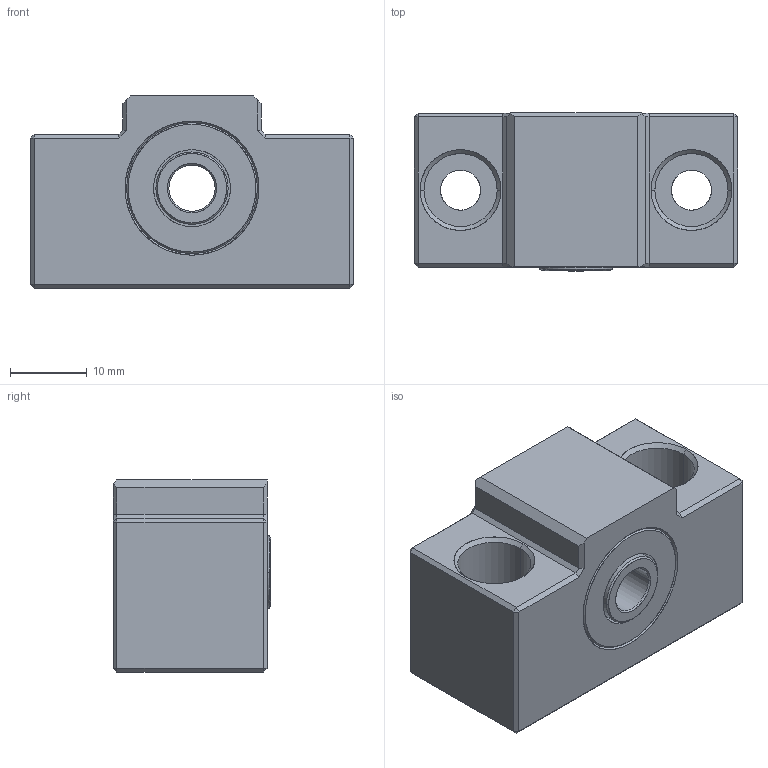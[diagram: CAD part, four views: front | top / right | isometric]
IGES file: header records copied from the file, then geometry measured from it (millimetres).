
Start section: SolidWorks IGES file using analytic representation for surfaces
Global section: file name: E:\同创达图纸\产品示意图\3D选型图\支撑座\EK系列\EK06.IGS; native system: SolidWorks 2012; preprocessor: SolidWorks 2012; author: gao; date: 130702.172721; units: millimetre
Bounding box: 42 x 20.5 x 25 mm (x, y, z)
Surface area: 6757.6 mm2 (no closed solid volume)
Topology: 0 solids, 0 shells, 95 faces, 1062 edges, 1062 vertices
Faces by surface type: bspline 53, revolution 42
